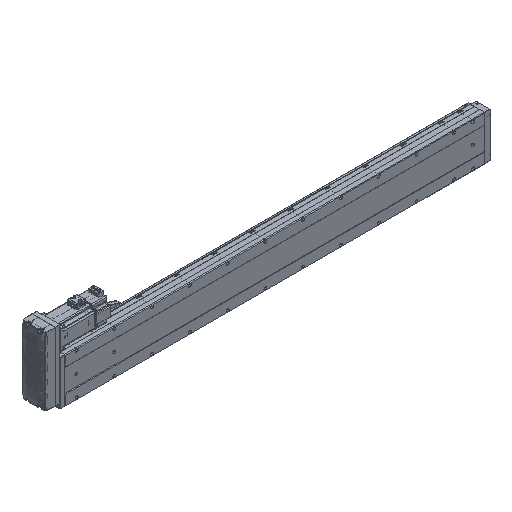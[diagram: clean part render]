
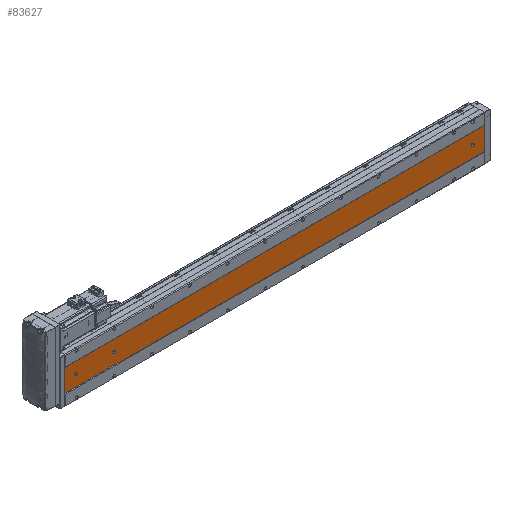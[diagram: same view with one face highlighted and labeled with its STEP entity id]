
A CAD part, isometric view. The second image highlights one B-rep face of the part: STEP entity #83627.
In plain terms, the highlighted planar face has unit normal (0, -1, 0).
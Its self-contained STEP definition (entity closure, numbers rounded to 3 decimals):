
#507 = EDGE_CURVE ( 'NONE', #31760, #83319, #93093, .T. ) ;
#955 = EDGE_CURVE ( 'NONE', #57880, #13228, #4266, .T. ) ;
#1174 = CIRCLE ( 'NONE', #111074, 3.5 ) ;
#2195 = ORIENTED_EDGE ( 'NONE', *, *, #26185, .T. ) ;
#3262 = ORIENTED_EDGE ( 'NONE', *, *, #44196, .T. ) ;
#4266 = LINE ( 'NONE', #25424, #35369 ) ;
#4320 = EDGE_LOOP ( 'NONE', ( #2195, #3262 ) ) ;
#5791 = CARTESIAN_POINT ( 'NONE',  ( -39.892, -52.848, 981. ) ) ;
#6014 = VERTEX_POINT ( 'NONE', #36930 ) ;
#6410 = DIRECTION ( 'NONE',  ( 0., 0., 1. ) ) ;
#6551 = EDGE_CURVE ( 'NONE', #83319, #31760, #1174, .T. ) ;
#8204 = LINE ( 'NONE', #71114, #97528 ) ;
#8261 = CARTESIAN_POINT ( 'NONE',  ( -39.892, -52.848, 32. ) ) ;
#9080 = DIRECTION ( 'NONE',  ( 0., 1., 0. ) ) ;
#9506 = AXIS2_PLACEMENT_3D ( 'NONE', #22757, #39804, #30318 ) ;
#9566 = VERTEX_POINT ( 'NONE', #64065 ) ;
#10562 = CARTESIAN_POINT ( 'NONE',  ( -39.892, -52.848, 30. ) ) ;
#10832 = FACE_BOUND ( 'NONE', #4320, .T. ) ;
#11614 = EDGE_CURVE ( 'NONE', #39606, #13228, #31453, .T. ) ;
#12305 = EDGE_CURVE ( 'NONE', #30834, #53144, #64678, .T. ) ;
#13228 = VERTEX_POINT ( 'NONE', #76881 ) ;
#13955 = DIRECTION ( 'NONE',  ( 0., 1., 0. ) ) ;
#14848 = DIRECTION ( 'NONE',  ( 0., 0., 1. ) ) ;
#16605 = VERTEX_POINT ( 'NONE', #30423 ) ;
#20645 = CARTESIAN_POINT ( 'NONE',  ( -9.892, -52.848, 1111. ) ) ;
#22757 = CARTESIAN_POINT ( 'NONE',  ( -39.892, -52.848, 30. ) ) ;
#24488 = FACE_OUTER_BOUND ( 'NONE', #97038, .T. ) ;
#24621 = DIRECTION ( 'NONE',  ( 0., 1., 0. ) ) ;
#24946 = CARTESIAN_POINT ( 'NONE',  ( -69.892, -52.848, 1111. ) ) ;
#25424 = CARTESIAN_POINT ( 'NONE',  ( -69.892, -52.848, 0. ) ) ;
#25785 = CARTESIAN_POINT ( 'NONE',  ( -69.892, -52.848, 1111. ) ) ;
#26185 = EDGE_CURVE ( 'NONE', #65391, #6014, #28901, .T. ) ;
#28901 = CIRCLE ( 'NONE', #31023, 3.5 ) ;
#29788 = CIRCLE ( 'NONE', #9506, 3.5 ) ;
#29803 = DIRECTION ( 'NONE',  ( 0., 0., 1. ) ) ;
#30318 = DIRECTION ( 'NONE',  ( 0., 0., 1. ) ) ;
#30423 = CARTESIAN_POINT ( 'NONE',  ( -69.892, -52.848, 1111. ) ) ;
#30834 = VERTEX_POINT ( 'NONE', #53501 ) ;
#31023 = AXIS2_PLACEMENT_3D ( 'NONE', #64262, #46515, #29803 ) ;
#31334 = CARTESIAN_POINT ( 'NONE',  ( -39.892, -52.848, 981. ) ) ;
#31453 = LINE ( 'NONE', #103754, #99101 ) ;
#31504 = ORIENTED_EDGE ( 'NONE', *, *, #107092, .T. ) ;
#31513 = VERTEX_POINT ( 'NONE', #46554 ) ;
#31760 = VERTEX_POINT ( 'NONE', #98977 ) ;
#33917 = AXIS2_PLACEMENT_3D ( 'NONE', #5791, #24621, #14848 ) ;
#34180 = DIRECTION ( 'NONE',  ( 0., 0., -1. ) ) ;
#34686 = VECTOR ( 'NONE', #59771, 1000. ) ;
#35369 = VECTOR ( 'NONE', #110550, 1000. ) ;
#36632 = DIRECTION ( 'NONE',  ( 0., 1., 0. ) ) ;
#36830 = ORIENTED_EDGE ( 'NONE', *, *, #44558, .T. ) ;
#36930 = CARTESIAN_POINT ( 'NONE',  ( -39.892, -52.848, 1084.5 ) ) ;
#39113 = ORIENTED_EDGE ( 'NONE', *, *, #6551, .T. ) ;
#39606 = VERTEX_POINT ( 'NONE', #20645 ) ;
#39804 = DIRECTION ( 'NONE',  ( 0., 1., 0. ) ) ;
#39951 = CARTESIAN_POINT ( 'NONE',  ( -36.392, -52.848, 30. ) ) ;
#39957 = VECTOR ( 'NONE', #60195, 1000. ) ;
#40778 = CIRCLE ( 'NONE', #62315, 3.5 ) ;
#41945 = DIRECTION ( 'NONE',  ( 0., 0., 1. ) ) ;
#42299 = CIRCLE ( 'NONE', #84376, 3.5 ) ;
#44196 = EDGE_CURVE ( 'NONE', #6014, #65391, #40778, .T. ) ;
#44558 = EDGE_CURVE ( 'NONE', #9566, #30834, #8204, .T. ) ;
#46515 = DIRECTION ( 'NONE',  ( 0., 1., 0. ) ) ;
#46554 = CARTESIAN_POINT ( 'NONE',  ( -39.892, -52.848, 26.5 ) ) ;
#47320 = VERTEX_POINT ( 'NONE', #39951 ) ;
#47884 = ORIENTED_EDGE ( 'NONE', *, *, #53378, .T. ) ;
#51119 = DIRECTION ( 'NONE',  ( 0., 0., 1. ) ) ;
#52241 = ORIENTED_EDGE ( 'NONE', *, *, #12305, .T. ) ;
#52619 = ORIENTED_EDGE ( 'NONE', *, *, #955, .T. ) ;
#53144 = VERTEX_POINT ( 'NONE', #88667 ) ;
#53378 = EDGE_CURVE ( 'NONE', #47320, #31513, #29788, .T. ) ;
#53501 = CARTESIAN_POINT ( 'NONE',  ( -43.392, -52.848, 32. ) ) ;
#54772 = ORIENTED_EDGE ( 'NONE', *, *, #57591, .T. ) ;
#56820 = ORIENTED_EDGE ( 'NONE', *, *, #11614, .F. ) ;
#57591 = EDGE_CURVE ( 'NONE', #53144, #47320, #73837, .T. ) ;
#57685 = LINE ( 'NONE', #24946, #34686 ) ;
#57880 = VERTEX_POINT ( 'NONE', #74506 ) ;
#59327 = DIRECTION ( 'NONE',  ( 0., 1., 0. ) ) ;
#59681 = FACE_BOUND ( 'NONE', #103360, .T. ) ;
#59771 = DIRECTION ( 'NONE',  ( 1., 0., 0. ) ) ;
#60195 = DIRECTION ( 'NONE',  ( 0., 0., -1. ) ) ;
#61858 = AXIS2_PLACEMENT_3D ( 'NONE', #8261, #59327, #41945 ) ;
#62315 = AXIS2_PLACEMENT_3D ( 'NONE', #84432, #66981, #51119 ) ;
#62766 = AXIS2_PLACEMENT_3D ( 'NONE', #103625, #9080, #95348 ) ;
#64065 = CARTESIAN_POINT ( 'NONE',  ( -43.392, -52.848, 30. ) ) ;
#64262 = CARTESIAN_POINT ( 'NONE',  ( -39.892, -52.848, 1081. ) ) ;
#64678 = CIRCLE ( 'NONE', #61858, 3.5 ) ;
#65391 = VERTEX_POINT ( 'NONE', #81186 ) ;
#66981 = DIRECTION ( 'NONE',  ( 0., 1., 0. ) ) ;
#71114 = CARTESIAN_POINT ( 'NONE',  ( -43.392, -52.848, 1111. ) ) ;
#72706 = CARTESIAN_POINT ( 'NONE',  ( -39.892, -52.848, 984.5 ) ) ;
#73272 = FACE_BOUND ( 'NONE', #109192, .T. ) ;
#73837 = LINE ( 'NONE', #92058, #39957 ) ;
#74018 = EDGE_CURVE ( 'NONE', #16605, #57880, #111368, .T. ) ;
#74506 = CARTESIAN_POINT ( 'NONE',  ( -69.892, -52.848, 0. ) ) ;
#75571 = ORIENTED_EDGE ( 'NONE', *, *, #507, .T. ) ;
#76881 = CARTESIAN_POINT ( 'NONE',  ( -9.892, -52.848, 0. ) ) ;
#81186 = CARTESIAN_POINT ( 'NONE',  ( -39.892, -52.848, 1077.5 ) ) ;
#83319 = VERTEX_POINT ( 'NONE', #72706 ) ;
#83627 = ADVANCED_FACE ( 'NONE', ( #73272, #59681, #10832, #24488 ), #111191, .F. ) ;
#84376 = AXIS2_PLACEMENT_3D ( 'NONE', #10562, #36632, #88871 ) ;
#84432 = CARTESIAN_POINT ( 'NONE',  ( -39.892, -52.848, 1081. ) ) ;
#88406 = VECTOR ( 'NONE', #93963, 1000. ) ;
#88667 = CARTESIAN_POINT ( 'NONE',  ( -36.392, -52.848, 32. ) ) ;
#88871 = DIRECTION ( 'NONE',  ( 0., 0., 1. ) ) ;
#89240 = DIRECTION ( 'NONE',  ( 0., 0., 1. ) ) ;
#89279 = EDGE_CURVE ( 'NONE', #16605, #39606, #57685, .T. ) ;
#90520 = ORIENTED_EDGE ( 'NONE', *, *, #89279, .F. ) ;
#92058 = CARTESIAN_POINT ( 'NONE',  ( -36.392, -52.848, 1111. ) ) ;
#93093 = CIRCLE ( 'NONE', #33917, 3.5 ) ;
#93963 = DIRECTION ( 'NONE',  ( 0., 0., -1. ) ) ;
#95348 = DIRECTION ( 'NONE',  ( 0., 0., 1. ) ) ;
#97038 = EDGE_LOOP ( 'NONE', ( #52619, #56820, #90520, #99751 ) ) ;
#97528 = VECTOR ( 'NONE', #89240, 1000. ) ;
#98977 = CARTESIAN_POINT ( 'NONE',  ( -39.892, -52.848, 977.5 ) ) ;
#99101 = VECTOR ( 'NONE', #34180, 1000. ) ;
#99751 = ORIENTED_EDGE ( 'NONE', *, *, #74018, .T. ) ;
#103360 = EDGE_LOOP ( 'NONE', ( #75571, #39113 ) ) ;
#103625 = CARTESIAN_POINT ( 'NONE',  ( -69.892, -52.848, 1111. ) ) ;
#103754 = CARTESIAN_POINT ( 'NONE',  ( -9.892, -52.848, 1111. ) ) ;
#107092 = EDGE_CURVE ( 'NONE', #31513, #9566, #42299, .T. ) ;
#109192 = EDGE_LOOP ( 'NONE', ( #36830, #52241, #54772, #47884, #31504 ) ) ;
#110550 = DIRECTION ( 'NONE',  ( 1., 0., 0. ) ) ;
#111074 = AXIS2_PLACEMENT_3D ( 'NONE', #31334, #13955, #6410 ) ;
#111191 = PLANE ( 'NONE',  #62766 ) ;
#111368 = LINE ( 'NONE', #25785, #88406 ) ;
